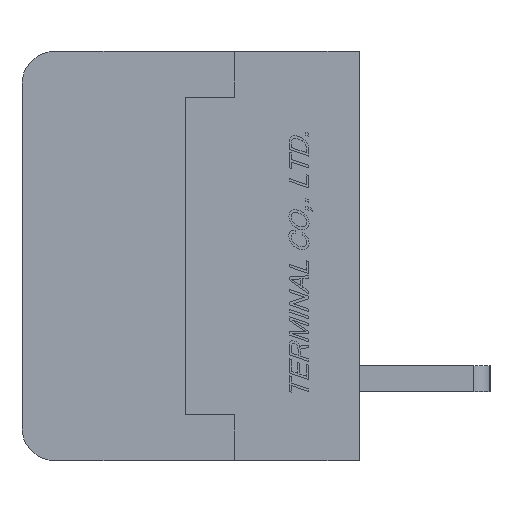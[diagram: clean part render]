
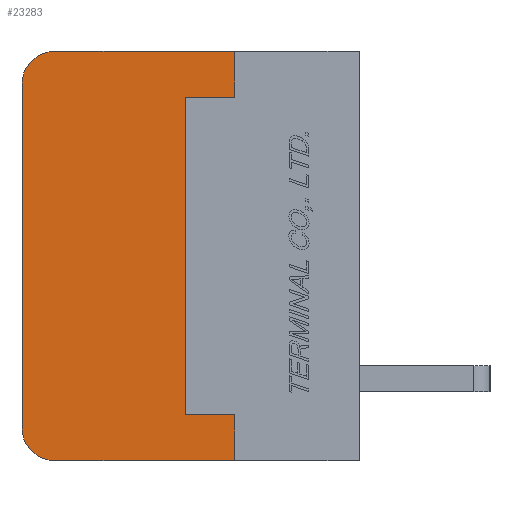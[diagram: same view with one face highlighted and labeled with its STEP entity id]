
A CAD part, left-side view. The second image highlights one B-rep face of the part: STEP entity #23283.
In plain terms, the highlighted planar face has unit normal (-1, 0, 0).
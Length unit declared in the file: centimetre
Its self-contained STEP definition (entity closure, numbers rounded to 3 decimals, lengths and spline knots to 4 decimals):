
#457=CIRCLE('',#39795,0.1);
#459=CIRCLE('',#39798,0.1);
#1656=VERTEX_POINT('',#31906);
#1657=VERTEX_POINT('',#31908);
#1658=VERTEX_POINT('',#31912);
#1659=VERTEX_POINT('',#31916);
#1660=VERTEX_POINT('',#31920);
#1661=VERTEX_POINT('',#31924);
#1807=VERTEX_POINT('',#32427);
#1808=VERTEX_POINT('',#32429);
#1810=VERTEX_POINT('',#32435);
#1812=VERTEX_POINT('',#32441);
#4154=VECTOR('',#25853,1.);
#4157=VECTOR('',#25857,1.);
#4159=VECTOR('',#25860,1.);
#4161=VECTOR('',#25863,1.);
#4162=VECTOR('',#25865,1.);
#4300=VECTOR('',#26172,1.);
#4306=VECTOR('',#26192,1.);
#4307=VECTOR('',#26193,1.);
#6774=LINE('',#31907,#4154);
#6777=LINE('',#31913,#4157);
#6779=LINE('',#31917,#4159);
#6781=LINE('',#31921,#4161);
#6782=LINE('',#31923,#4162);
#6920=LINE('',#32428,#4300);
#6926=LINE('',#32447,#4306);
#6927=LINE('',#32448,#4307);
#9498=EDGE_CURVE('',#1657,#1656,#6774,.T.);
#9501=EDGE_CURVE('',#1656,#1658,#6777,.T.);
#9503=EDGE_CURVE('',#1658,#1659,#6779,.T.);
#9505=EDGE_CURVE('',#1659,#1660,#6781,.T.);
#9506=EDGE_CURVE('',#1661,#1657,#6782,.T.);
#9719=EDGE_CURVE('',#1807,#1808,#6920,.T.);
#9723=EDGE_CURVE('',#1810,#1807,#457,.T.);
#9725=EDGE_CURVE('',#1808,#1812,#459,.T.);
#9729=EDGE_CURVE('',#1812,#1660,#6926,.T.);
#9730=EDGE_CURVE('',#1661,#1810,#6927,.T.);
#14099=ORIENTED_EDGE('',*,*,#9505,.T.);
#14100=ORIENTED_EDGE('',*,*,#9729,.F.);
#14101=ORIENTED_EDGE('',*,*,#9725,.F.);
#14102=ORIENTED_EDGE('',*,*,#9719,.F.);
#14103=ORIENTED_EDGE('',*,*,#9723,.F.);
#14104=ORIENTED_EDGE('',*,*,#9730,.F.);
#14105=ORIENTED_EDGE('',*,*,#9506,.T.);
#14106=ORIENTED_EDGE('',*,*,#9498,.T.);
#14107=ORIENTED_EDGE('',*,*,#9501,.T.);
#14108=ORIENTED_EDGE('',*,*,#9503,.T.);
#20337=EDGE_LOOP('',(#14099,#14100,#14101,#14102,#14103,#14104,#14105,#14106,
#14107,#14108));
#21823=FACE_BOUND('',#20337,.T.);
#23283=ADVANCED_FACE('',(#21823),#24567,.F.);
#24567=PLANE('',#39800);
#25853=DIRECTION('',(0.,1.,0.));
#25857=DIRECTION('',(0.,0.,1.));
#25860=DIRECTION('',(0.,-1.,0.));
#25863=DIRECTION('',(0.,0.,1.));
#25865=DIRECTION('',(0.,0.,1.));
#26172=DIRECTION('',(0.,0.,1.));
#26179=DIRECTION('',(1.,0.,0.));
#26180=DIRECTION('',(0.,0.,-0.1));
#26185=DIRECTION('',(1.,0.,0.));
#26186=DIRECTION('',(0.,0.,-0.1));
#26191=DIRECTION('',(1.,0.,0.));
#26192=DIRECTION('',(0.,-1.,0.));
#26193=DIRECTION('',(0.,1.,0.));
#31906=CARTESIAN_POINT('',(-0.762,0.53,-0.485));
#31907=CARTESIAN_POINT('',(-0.762,0.4799,-0.485));
#31908=CARTESIAN_POINT('',(-0.762,0.38,-0.485));
#31912=CARTESIAN_POINT('',(-0.762,0.53,0.485));
#31913=CARTESIAN_POINT('',(-0.762,0.53,0.));
#31916=CARTESIAN_POINT('',(-0.762,0.38,0.485));
#31917=CARTESIAN_POINT('',(-0.762,0.4799,0.485));
#31920=CARTESIAN_POINT('',(-0.762,0.38,0.625));
#31921=CARTESIAN_POINT('',(-0.762,0.38,0.2775));
#31923=CARTESIAN_POINT('',(-0.762,0.38,-0.2775));
#31924=CARTESIAN_POINT('',(-0.762,0.38,-0.625));
#32427=CARTESIAN_POINT('',(-0.762,1.03,-0.525));
#32428=CARTESIAN_POINT('',(-0.762,1.03,-0.525));
#32429=CARTESIAN_POINT('',(-0.762,1.03,0.525));
#32435=CARTESIAN_POINT('',(-0.762,0.93,-0.625));
#32436=CARTESIAN_POINT('',(-0.762,0.93,-0.525));
#32440=CARTESIAN_POINT('',(-0.762,0.93,0.525));
#32441=CARTESIAN_POINT('',(-0.762,0.93,0.625));
#32446=CARTESIAN_POINT('',(-0.762,0.5047,0.));
#32447=CARTESIAN_POINT('',(-0.762,0.93,0.625));
#32448=CARTESIAN_POINT('',(-0.762,0.,-0.625));
#39795=AXIS2_PLACEMENT_3D('',#32436,#26179,#26180);
#39798=AXIS2_PLACEMENT_3D('',#32440,#26185,#26186);
#39800=AXIS2_PLACEMENT_3D('',#32446,#26191,$);
